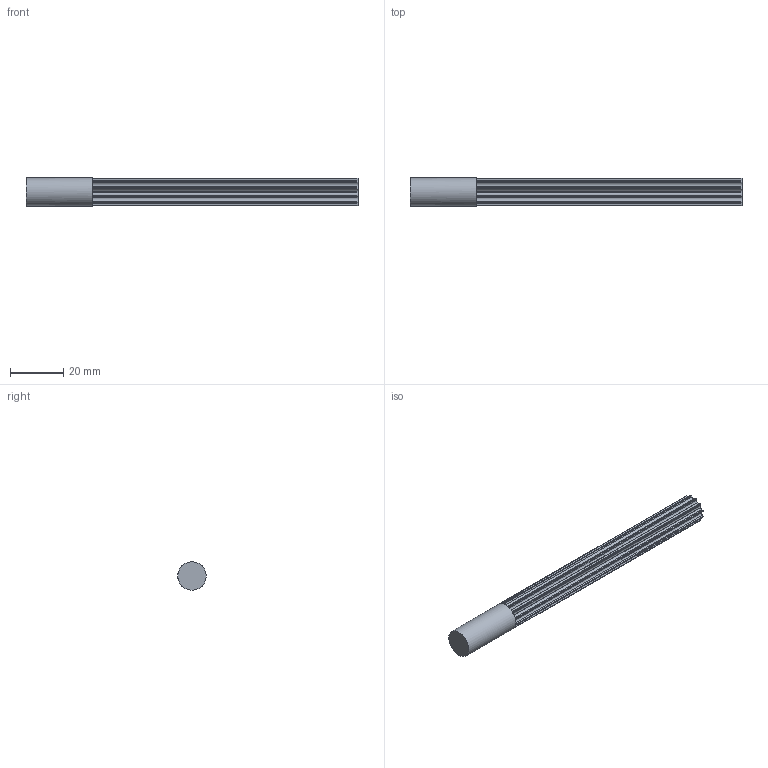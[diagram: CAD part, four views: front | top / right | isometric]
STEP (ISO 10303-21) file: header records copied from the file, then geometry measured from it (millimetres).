
FILE_DESCRIPTION( ( 'STEP AP214' ), '1' );
FILE_NAME( 'C:/Users/StangenbergN/Desktop/Steps Zahnriemenräder/K166_HTD-Zahnwellen/17091200.stp', '2019-06-06T09:33:15', ( '' ), ( '' ), ' ', 'PARTsolutions', ' ' );
FILE_SCHEMA( ( 'AUTOMOTIVE_DESIGN { 1 0 10303 214 1 1 1 1 }' ) );
Length unit declared in the file: millimetre
Products named in the file (1): _17091200
Bounding box: 125 x 10.7 x 10.7 mm (x, y, z)
Volume: 8805.9 mm3; surface area: 5464.4 mm2
Topology: 1 solids, 1 shells, 99 faces, 291 edges, 194 vertices
Faces by surface type: plane 50, cylinder 49
Full cylindrical faces by diameter (mm): 10.7 x1
Entity records: 4140 total; most frequent: DIRECTION 610, CARTESIAN_POINT 582, ORIENTED_EDGE 578, EDGE_CURVE 289, AXIS2_PLACEMENT_3D 221, VERTEX_POINT 193, LINE 168, VECTOR 168
